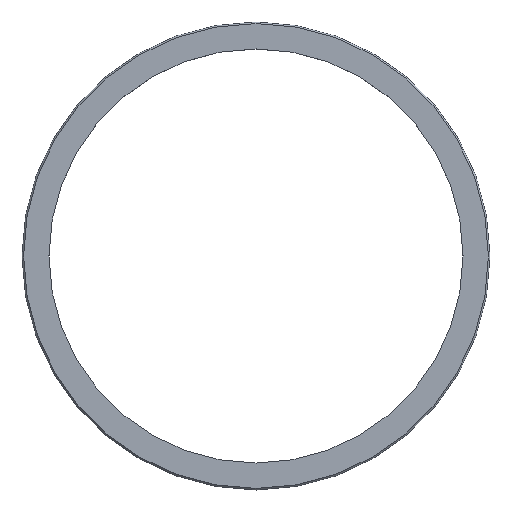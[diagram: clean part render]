
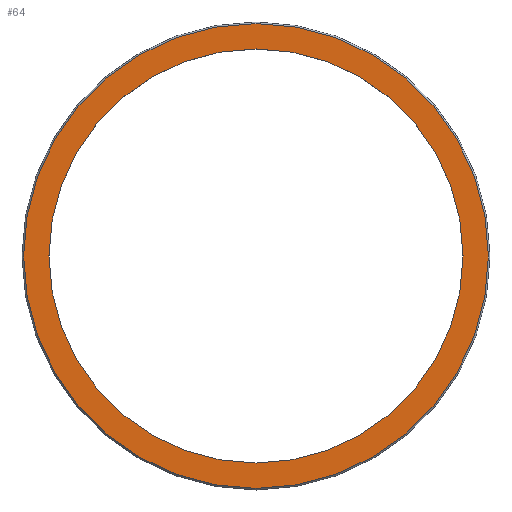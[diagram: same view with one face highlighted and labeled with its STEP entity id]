
A CAD part, top view. The second image highlights one B-rep face of the part: STEP entity #64.
In plain terms, the highlighted planar face has unit normal (0, 0, 1).
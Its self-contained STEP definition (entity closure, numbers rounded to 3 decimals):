
#56=FACE_BOUND('',#86,.F.);
#59=PLANE('',#232);
#64=ADVANCED_FACE('',(#56,#75),#59,.T.);
#75=FACE_OUTER_BOUND('',#87,.F.);
#86=EDGE_LOOP('',(#106,#107));
#87=EDGE_LOOP('',(#108,#109));
#106=ORIENTED_EDGE('',*,*,#178,.T.);
#107=ORIENTED_EDGE('',*,*,#172,.T.);
#108=ORIENTED_EDGE('',*,*,#167,.F.);
#109=ORIENTED_EDGE('',*,*,#164,.F.);
#164=EDGE_CURVE('',#213,#212,#186,.T.);
#167=EDGE_CURVE('',#212,#213,#189,.T.);
#172=EDGE_CURVE('',#205,#204,#194,.T.);
#178=EDGE_CURVE('',#204,#205,#196,.T.);
#186=CIRCLE('',#216,29.3);
#189=CIRCLE('',#219,29.3);
#194=CIRCLE('',#224,26.1);
#196=CIRCLE('',#226,26.1);
#204=VERTEX_POINT('',#309);
#205=VERTEX_POINT('',#310);
#212=VERTEX_POINT('',#317);
#213=VERTEX_POINT('',#318);
#216=AXIS2_PLACEMENT_3D('',#319,#244,#245);
#219=AXIS2_PLACEMENT_3D('',#322,#250,#251);
#224=AXIS2_PLACEMENT_3D('',#327,#260,#261);
#226=AXIS2_PLACEMENT_3D('',#333,#268,#269);
#232=AXIS2_PLACEMENT_3D('',#343,#284,#285);
#244=DIRECTION('',(0.,0.,1.));
#245=DIRECTION('',(0.,1.,0.));
#250=DIRECTION('',(0.,0.,1.));
#251=DIRECTION('',(0.,-1.,0.));
#260=DIRECTION('',(0.,0.,1.));
#261=DIRECTION('',(0.,-1.,0.));
#268=DIRECTION('',(0.,0.,1.));
#269=DIRECTION('',(0.,1.,0.));
#284=DIRECTION('',(0.,0.,1.));
#285=DIRECTION('',(-1.,0.,0.));
#309=CARTESIAN_POINT('',(197.042,61.73,-182.7));
#310=CARTESIAN_POINT('',(197.042,9.53,-182.7));
#317=CARTESIAN_POINT('',(197.042,6.33,-182.7));
#318=CARTESIAN_POINT('',(197.042,64.93,-182.7));
#319=CARTESIAN_POINT('',(197.042,35.63,-182.7));
#322=CARTESIAN_POINT('',(197.042,35.63,-182.7));
#327=CARTESIAN_POINT('',(197.042,35.63,-182.7));
#333=CARTESIAN_POINT('',(197.042,35.63,-182.7));
#343=CARTESIAN_POINT('',(227.132,65.72,-182.7));
